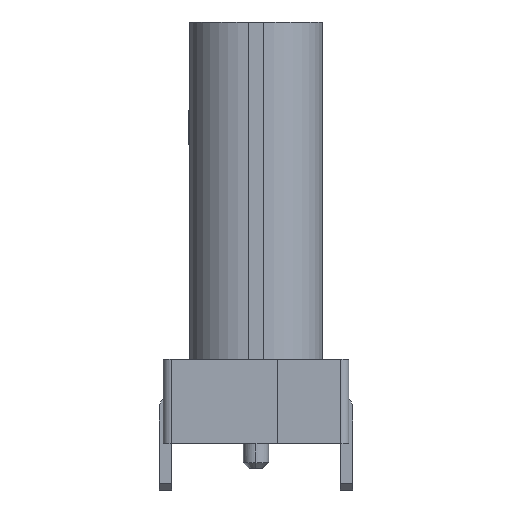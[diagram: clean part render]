
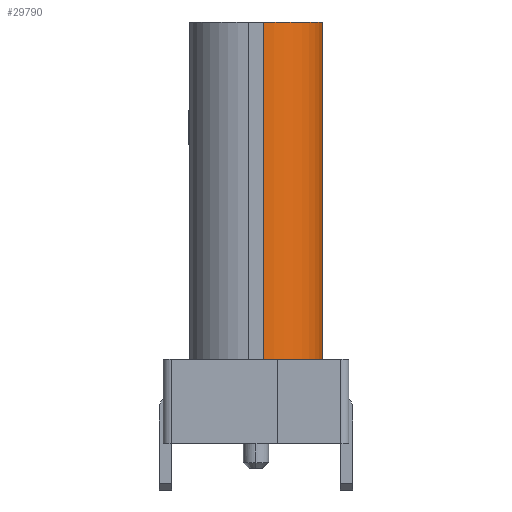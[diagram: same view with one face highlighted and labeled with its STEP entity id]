
A CAD part, left-side view. The second image highlights one B-rep face of the part: STEP entity #29790.
In plain terms, the highlighted cylindrical face has radius 35.56 mm (diameter 71.12 mm), a partial arc.
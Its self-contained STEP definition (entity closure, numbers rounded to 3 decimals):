
#1127 = DIRECTION ( 'NONE',  ( 0., 0., -1. ) ) ;
#2169 = CARTESIAN_POINT ( 'NONE',  ( 67482.447, 14862.228, 30.48 ) ) ;
#2242 = AXIS2_PLACEMENT_3D ( 'NONE', #2562, #15024, #27523 ) ;
#2562 = CARTESIAN_POINT ( 'NONE',  ( 67482.447, 14862.228, -172.72 ) ) ;
#2950 = AXIS2_PLACEMENT_3D ( 'NONE', #2169, #14635, #21579 ) ;
#5392 = DIRECTION ( 'NONE',  ( 0., 0., 1. ) ) ;
#6138 = VECTOR ( 'NONE', #23302, 1000. ) ;
#7457 = CARTESIAN_POINT ( 'NONE',  ( 67482.447, 14862.228, 0. ) ) ;
#8069 = VERTEX_POINT ( 'NONE', #28718 ) ;
#8412 = ORIENTED_EDGE ( 'NONE', *, *, #35842, .T. ) ;
#8806 = EDGE_CURVE ( 'NONE', #26668, #8069, #27691, .T. ) ;
#13349 = CARTESIAN_POINT ( 'NONE',  ( 67446.887, 14862.228, -172.72 ) ) ;
#13352 = AXIS2_PLACEMENT_3D ( 'NONE', #7457, #1127, #20326 ) ;
#13480 = LINE ( 'NONE', #13868, #6138 ) ;
#13868 = CARTESIAN_POINT ( 'NONE',  ( 67482.447, 14826.668, -172.72 ) ) ;
#13991 = FACE_OUTER_BOUND ( 'NONE', #17764, .T. ) ;
#14194 = ORIENTED_EDGE ( 'NONE', *, *, #30671, .F. ) ;
#14635 = DIRECTION ( 'NONE',  ( 0., 0., 1. ) ) ;
#15024 = DIRECTION ( 'NONE',  ( 0., 0., 1. ) ) ;
#15399 = CARTESIAN_POINT ( 'NONE',  ( 67446.887, 14862.228, -172.72 ) ) ;
#17314 = CIRCLE ( 'NONE', #2950, 35.56 ) ;
#17764 = EDGE_LOOP ( 'NONE', ( #8412, #37233, #14194, #30961 ) ) ;
#20132 = CYLINDRICAL_SURFACE ( 'NONE', #13352, 35.56 ) ;
#20326 = DIRECTION ( 'NONE',  ( -1., 0., 0. ) ) ;
#20533 = CIRCLE ( 'NONE', #2242, 35.56 ) ;
#21579 = DIRECTION ( 'NONE',  ( -1., 0., 0. ) ) ;
#23302 = DIRECTION ( 'NONE',  ( 0., 0., 1. ) ) ;
#26233 = VECTOR ( 'NONE', #5392, 1000. ) ;
#26668 = VERTEX_POINT ( 'NONE', #13349 ) ;
#27123 = VERTEX_POINT ( 'NONE', #27370 ) ;
#27370 = CARTESIAN_POINT ( 'NONE',  ( 67482.447, 14826.668, 30.48 ) ) ;
#27523 = DIRECTION ( 'NONE',  ( -1., 0., 0. ) ) ;
#27691 = LINE ( 'NONE', #15399, #26233 ) ;
#27790 = EDGE_CURVE ( 'NONE', #36063, #27123, #13480, .T. ) ;
#28718 = CARTESIAN_POINT ( 'NONE',  ( 67446.887, 14862.228, 30.48 ) ) ;
#29790 = ADVANCED_FACE ( 'NONE', ( #13991 ), #20132, .T. ) ;
#30671 = EDGE_CURVE ( 'NONE', #8069, #27123, #17314, .T. ) ;
#30961 = ORIENTED_EDGE ( 'NONE', *, *, #8806, .F. ) ;
#35505 = CARTESIAN_POINT ( 'NONE',  ( 67482.447, 14826.668, -172.72 ) ) ;
#35842 = EDGE_CURVE ( 'NONE', #26668, #36063, #20533, .T. ) ;
#36063 = VERTEX_POINT ( 'NONE', #35505 ) ;
#37233 = ORIENTED_EDGE ( 'NONE', *, *, #27790, .T. ) ;
